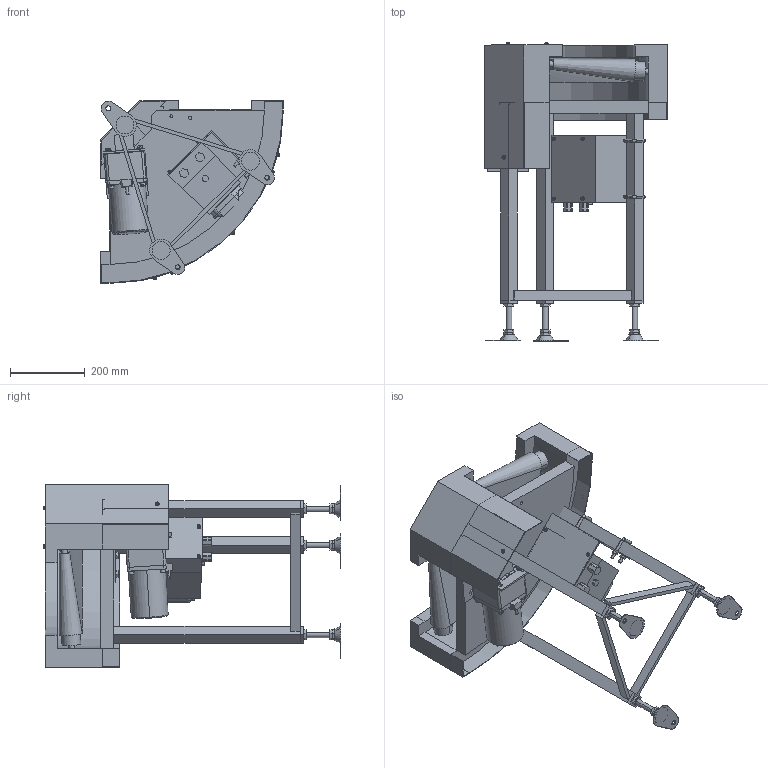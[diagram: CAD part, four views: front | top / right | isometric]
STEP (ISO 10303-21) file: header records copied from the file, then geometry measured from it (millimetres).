
FILE_DESCRIPTION (( 'STEP AP214' ), '1' );
FILE_NAME ('FBC-309-200-90°-L-IV-60.STEP', '2023-03-07T06:24:24', ( '' ), ( '' ), 'SwSTEP 2.0', 'SolidWorks 2017', '' );
FILE_SCHEMA (( 'AUTOMOTIVE_DESIGN' ));
Length unit declared in the file: millimetre
Products named in the file (1): FBC-309-200-90°-L-IV-60
Bounding box: 488 x 796.1 x 488 mm (x, y, z)
Volume: 26304800.2 mm3; surface area: 2287100.4 mm2
Topology: 40 solids, 41 shells, 1168 faces, 2769 edges, 1771 vertices
Faces by surface type: plane 668, cylinder 364, cone 70, torus 36, bspline 30
Entity records: 37502 total; most frequent: CARTESIAN_POINT 9725, DIRECTION 5732, ORIENTED_EDGE 5506, EDGE_CURVE 2753, AXIS2_PLACEMENT_3D 2018, VERTEX_POINT 1771, LINE 1696, VECTOR 1696
